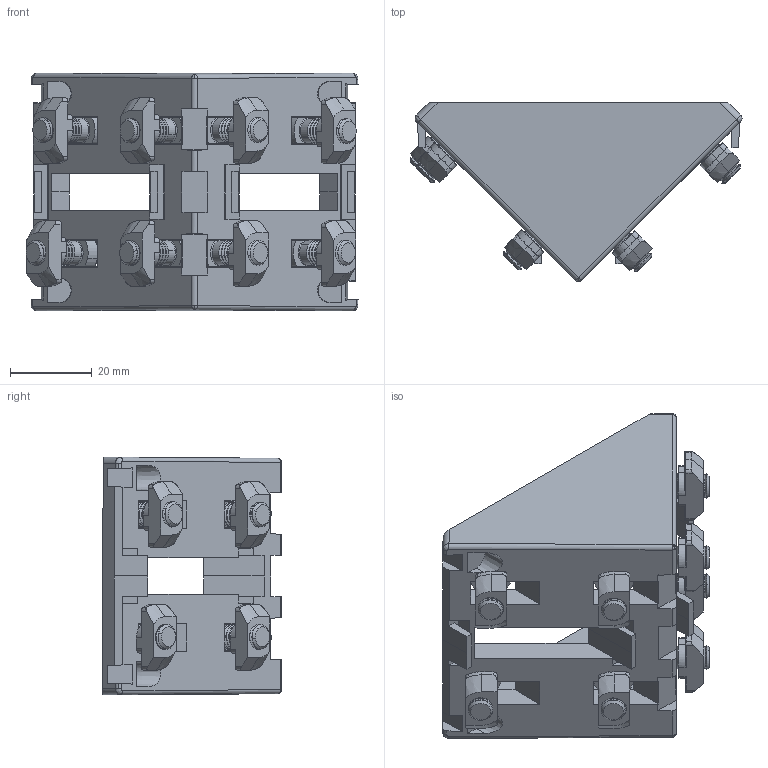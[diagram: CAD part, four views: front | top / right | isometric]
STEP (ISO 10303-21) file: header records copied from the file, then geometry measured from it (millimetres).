
FILE_DESCRIPTION (( 'STEP AP203' ), '1' );
FILE_NAME ('32107002_Winkel 60x60 Nut 8 mit Bef.-Satz.step', '2023-11-07T10:01:22', ( '' ), ( '' ), 'SwSTEP 2.0', 'SolidWorks 2021', '' );
FILE_SCHEMA (( 'CONFIG_CONTROL_DESIGN' ));
Length unit declared in the file: millimetre
Products named in the file (4): 341030 Hammermutter Nut 8 M6; DIN 7984 - M6 x 14 --- 14S_DIN 7984 - M6 x 14 --- 14S; 32107000 Winkel 60x60 Nut 10; 32107002_Winkel 60x60 Nut 8 mit Bef.-Satz
Assembly tree (17 placements, depth 2):
  32107002_Winkel 60x60 Nut 8 mit Bef.-Satz
    32107000 Winkel 60x60 Nut 10
    341030 Hammermutter Nut 8 M6  x8
    DIN 7984 - M6 x 14 --- 14S_DIN 7984 - M6 x 14 --- 14S  x8
Bounding box: 81.04 x 43.77 x 58.07 mm (x, y, z)
Volume: 50913.2 mm3; surface area: 30197.9 mm2
Topology: 17 solids, 17 shells, 1445 faces, 3886 edges, 2476 vertices
Faces by surface type: plane 503, cylinder 474, cone 404, torus 32, bspline 28, sphere 4
Entity records: 12352 total; most frequent: CARTESIAN_POINT 3565, ORIENTED_EDGE 1748, DIRECTION 1602, EDGE_CURVE 874, VECTOR 568, LINE 568, VERTEX_POINT 565, AXIS2_PLACEMENT_3D 517
